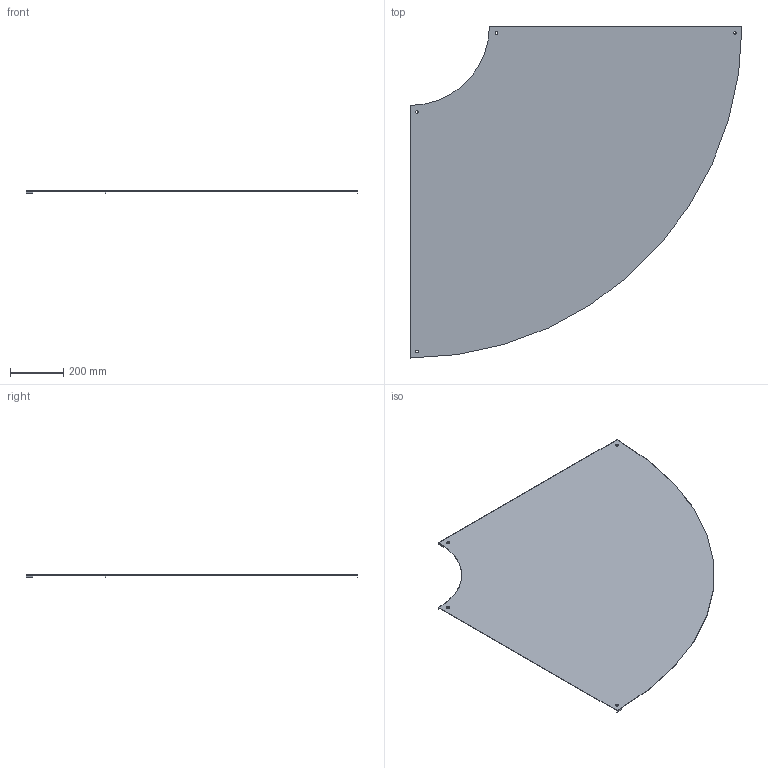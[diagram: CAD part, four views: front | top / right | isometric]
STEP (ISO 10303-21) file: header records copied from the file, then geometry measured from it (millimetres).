
FILE_DESCRIPTION(/* description */ ('','CAx-IF Rec.Pracs.---Representation and Presentation of Product Manufacturing Information (PMI)---4.0---2014-10-13'),/* implementation_level */ '2;1');
FILE_NAME(/* name */ 'Eurostrut_EFBC900-90-300_Cover Bend 90 for Cable Ladder ECL.step',/* time_stamp */ '2026-09-10T08:56:14+02:00',/* author */ (''),/* organization */ (''),/* preprocessor_version */ 'ST-DEVELOPER v20.1',/* originating_system */ 'Autodesk Revit 2027 27.2.0.39',/* authorisation */ '');
FILE_SCHEMA (('AP242_MANAGED_MODEL_BASED_3D_ENGINEERING_MIM_LF { 1 0 10303 442 2 1 4 }'));
Length unit declared in the file: millimetre
Products named in the file (5): TopLevelAssembly; Sweep; Sweep_1; Joined Solid Geometry; Joined Solid Geometry_1
Assembly tree (4 placements, depth 2):
  TopLevelAssembly
    Sweep
    Sweep_1
    Joined Solid Geometry
    Joined Solid Geometry_1
Bounding box: 1252.5 x 1252.5 x 9 mm (x, y, z)
Volume: 1743784.8 mm3; surface area: 2332244.3 mm2
Topology: 9 solids, 9 shells, 66 faces, 144 edges, 96 vertices
Faces by surface type: plane 48, cylinder 18
Entity records: 1904 total; most frequent: DIRECTION 330, CARTESIAN_POINT 315, ORIENTED_EDGE 288, EDGE_CURVE 144, AXIS2_PLACEMENT_3D 111, LINE 108, VECTOR 108, VERTEX_POINT 96
